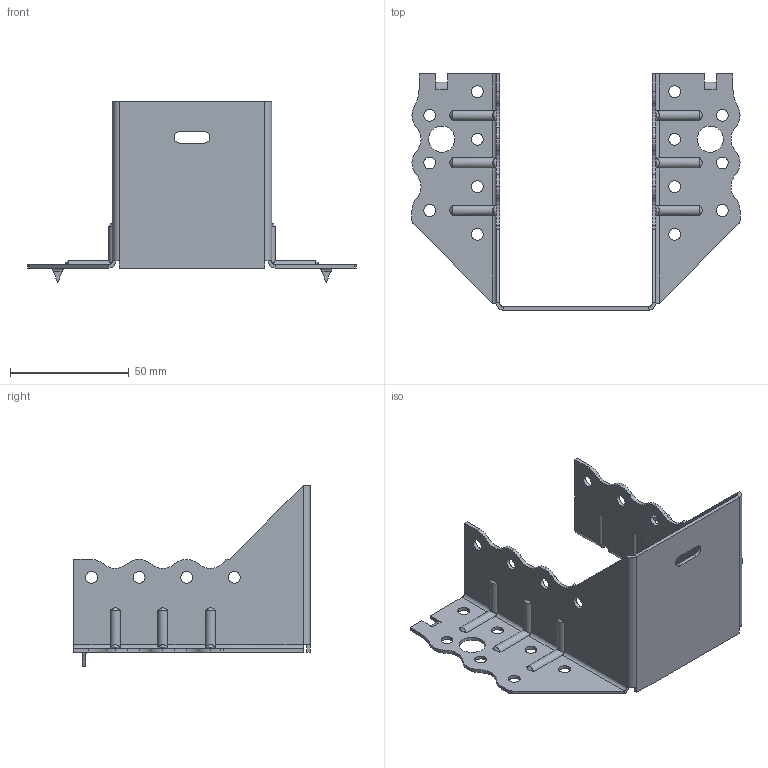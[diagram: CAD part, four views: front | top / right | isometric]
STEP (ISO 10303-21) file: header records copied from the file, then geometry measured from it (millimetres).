
FILE_DESCRIPTION (( 'STEP AP203' ), '1' );
FILE_NAME ('30604TOP.STEP', '2021-04-07T12:30:49', ( '' ), ( '' ), 'SwSTEP 2.0', 'SolidWorks 2013', '' );
FILE_SCHEMA (( 'CONFIG_CONTROL_DESIGN' ));
Length unit declared in the file: millimetre
Products named in the file (1): 30604TOP
Bounding box: 138 x 99.5 x 76 mm (x, y, z)
Volume: 26530 mm3; surface area: 37606.1 mm2
Topology: 1 solids, 1 shells, 263 faces, 691 edges, 430 vertices
Faces by surface type: cylinder 164, plane 75, torus 12, bspline 12
Entity records: 9606 total; most frequent: CARTESIAN_POINT 3011, ORIENTED_EDGE 1382, DIRECTION 1349, EDGE_CURVE 691, AXIS2_PLACEMENT_3D 492, VERTEX_POINT 430, VECTOR 365, LINE 365
